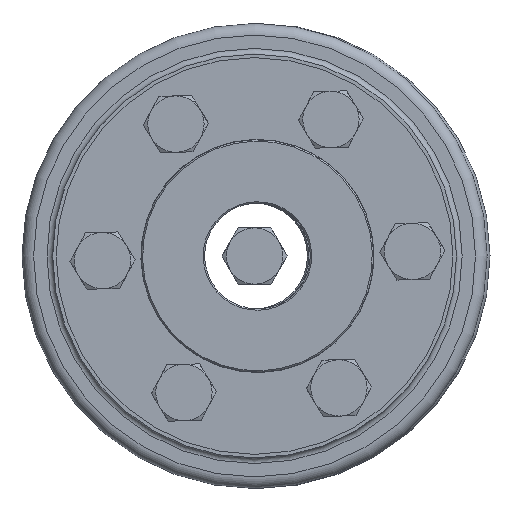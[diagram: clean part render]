
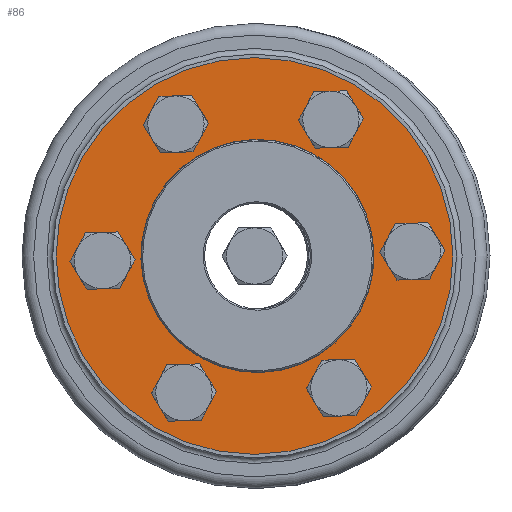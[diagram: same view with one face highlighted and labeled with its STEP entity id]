
A CAD part, left-side view. The second image highlights one B-rep face of the part: STEP entity #86.
In plain terms, the highlighted planar face has unit normal (-1, 0, 0).
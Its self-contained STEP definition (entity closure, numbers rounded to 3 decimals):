
#86 = ADVANCED_FACE( 'NONE', ( #169, #170, #171, #172, #173, #174, #175, #176 ), #177, .F. );
#169 = FACE_OUTER_BOUND( '', #281, .T. );
#170 = FACE_BOUND( '', #282, .T. );
#171 = FACE_BOUND( '', #283, .T. );
#172 = FACE_BOUND( '', #284, .T. );
#173 = FACE_BOUND( '', #285, .T. );
#174 = FACE_BOUND( '', #286, .T. );
#175 = FACE_BOUND( '', #287, .T. );
#176 = FACE_BOUND( '', #288, .T. );
#177 = PLANE( '', #289 );
#281 = EDGE_LOOP( '', ( #480 ) );
#282 = EDGE_LOOP( '', ( #481 ) );
#283 = EDGE_LOOP( '', ( #482 ) );
#284 = EDGE_LOOP( '', ( #483 ) );
#285 = EDGE_LOOP( '', ( #484 ) );
#286 = EDGE_LOOP( '', ( #485 ) );
#287 = EDGE_LOOP( '', ( #486 ) );
#288 = EDGE_LOOP( '', ( #487 ) );
#289 = AXIS2_PLACEMENT_3D( '', #488, #489, #490 );
#480 = ORIENTED_EDGE( '', *, *, #758, .T. );
#481 = ORIENTED_EDGE( '', *, *, #743, .T. );
#482 = ORIENTED_EDGE( '', *, *, #749, .T. );
#483 = ORIENTED_EDGE( '', *, *, #755, .T. );
#484 = ORIENTED_EDGE( '', *, *, #760, .T. );
#485 = ORIENTED_EDGE( '', *, *, #746, .T. );
#486 = ORIENTED_EDGE( '', *, *, #752, .T. );
#487 = ORIENTED_EDGE( '', *, *, #761, .F. );
#488 = CARTESIAN_POINT( '', ( 0., 16.5, 0. ) );
#489 = DIRECTION( '', ( 1., 0., 0. ) );
#490 = DIRECTION( '', ( 0., 1., 0. ) );
#743 = EDGE_CURVE( 'NONE', #993, #993, #994, .T. );
#746 = EDGE_CURVE( 'NONE', #998, #998, #999, .T. );
#749 = EDGE_CURVE( 'NONE', #1003, #1003, #1004, .T. );
#752 = EDGE_CURVE( 'NONE', #1008, #1008, #1009, .T. );
#755 = EDGE_CURVE( 'NONE', #1013, #1013, #1014, .T. );
#758 = EDGE_CURVE( 'NONE', #1018, #1018, #1019, .T. );
#760 = EDGE_CURVE( 'NONE', #1021, #1021, #1022, .T. );
#761 = EDGE_CURVE( 'NONE', #1023, #1023, #1024, .T. );
#993 = VERTEX_POINT( '', #1450 );
#994 = CIRCLE( '', #1451, 2.75 );
#998 = VERTEX_POINT( '', #1455 );
#999 = CIRCLE( '', #1456, 2.75 );
#1003 = VERTEX_POINT( '', #1460 );
#1004 = CIRCLE( '', #1461, 2.75 );
#1008 = VERTEX_POINT( '', #1465 );
#1009 = CIRCLE( '', #1466, 2.75 );
#1013 = VERTEX_POINT( '', #1470 );
#1014 = CIRCLE( '', #1471, 2.75 );
#1018 = VERTEX_POINT( '', #1475 );
#1019 = CIRCLE( '', #1476, 31.05 );
#1021 = VERTEX_POINT( '', #1478 );
#1022 = CIRCLE( '', #1479, 2.75 );
#1023 = VERTEX_POINT( '', #1480 );
#1024 = CIRCLE( '', #1481, 16.5 );
#1450 = CARTESIAN_POINT( '', ( 0., 11., 16.303 ) );
#1451 = AXIS2_PLACEMENT_3D( '', #1594, #1595, #1596 );
#1455 = CARTESIAN_POINT( '', ( 0., 11., -21.803 ) );
#1456 = AXIS2_PLACEMENT_3D( '', #1600, #1601, #1602 );
#1460 = CARTESIAN_POINT( '', ( 0., -11., 16.303 ) );
#1461 = AXIS2_PLACEMENT_3D( '', #1606, #1607, #1608 );
#1465 = CARTESIAN_POINT( '', ( 0., 22., -2.75 ) );
#1466 = AXIS2_PLACEMENT_3D( '', #1612, #1613, #1614 );
#1470 = CARTESIAN_POINT( '', ( 0., -22., -2.75 ) );
#1471 = AXIS2_PLACEMENT_3D( '', #1618, #1619, #1620 );
#1475 = CARTESIAN_POINT( '', ( 0., 0., -31.05 ) );
#1476 = AXIS2_PLACEMENT_3D( '', #1624, #1625, #1626 );
#1478 = CARTESIAN_POINT( '', ( 0., -11., -21.803 ) );
#1479 = AXIS2_PLACEMENT_3D( '', #1627, #1628, #1629 );
#1480 = CARTESIAN_POINT( '', ( 0., 0., 16.5 ) );
#1481 = AXIS2_PLACEMENT_3D( '', #1630, #1631, #1632 );
#1594 = CARTESIAN_POINT( '', ( 0., 11., 19.053 ) );
#1595 = DIRECTION( '', ( 1., 0., 0. ) );
#1596 = DIRECTION( '', ( 0., 0., -1. ) );
#1600 = CARTESIAN_POINT( '', ( 0., 11., -19.053 ) );
#1601 = DIRECTION( '', ( 1., 0., 0. ) );
#1602 = DIRECTION( '', ( 0., 0., -1. ) );
#1606 = CARTESIAN_POINT( '', ( 0., -11., 19.053 ) );
#1607 = DIRECTION( '', ( 1., 0., 0. ) );
#1608 = DIRECTION( '', ( 0., 0., -1. ) );
#1612 = CARTESIAN_POINT( '', ( 0., 22., 0. ) );
#1613 = DIRECTION( '', ( 1., 0., 0. ) );
#1614 = DIRECTION( '', ( 0., 0., -1. ) );
#1618 = CARTESIAN_POINT( '', ( 0., -22., 0. ) );
#1619 = DIRECTION( '', ( 1., 0., 0. ) );
#1620 = DIRECTION( '', ( 0., 0., -1. ) );
#1624 = CARTESIAN_POINT( '', ( 0., 0., 0. ) );
#1625 = DIRECTION( '', ( -1., 0., 0. ) );
#1626 = DIRECTION( '', ( 0., 0., -1. ) );
#1627 = CARTESIAN_POINT( '', ( 0., -11., -19.053 ) );
#1628 = DIRECTION( '', ( 1., 0., 0. ) );
#1629 = DIRECTION( '', ( 0., 0., -1. ) );
#1630 = CARTESIAN_POINT( '', ( 0., 0., 0. ) );
#1631 = DIRECTION( '', ( -1., 0., 0. ) );
#1632 = DIRECTION( '', ( 0., 0., 1. ) );
